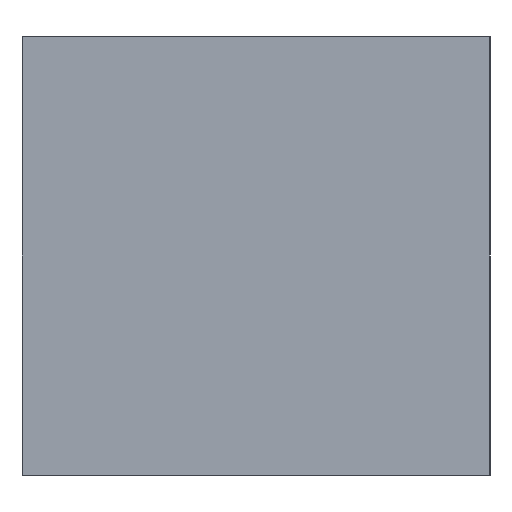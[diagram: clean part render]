
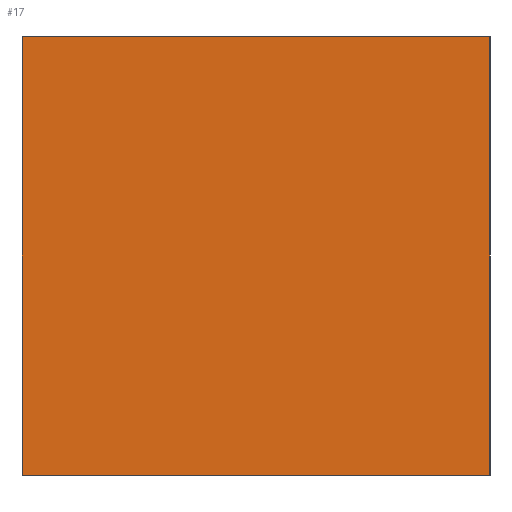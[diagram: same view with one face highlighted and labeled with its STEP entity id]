
A CAD part, left-side view. The second image highlights one B-rep face of the part: STEP entity #17.
In plain terms, the highlighted planar face has unit normal (-1, 0, 0).
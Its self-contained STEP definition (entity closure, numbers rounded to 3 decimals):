
#17 = ADVANCED_FACE('',(#18),#32,.F.);
#18 = FACE_BOUND('',#19,.F.);
#19 = EDGE_LOOP('',(#20,#55,#83,#111));
#20 = ORIENTED_EDGE('',*,*,#21,.F.);
#21 = EDGE_CURVE('',#22,#24,#26,.T.);
#22 = VERTEX_POINT('',#23);
#23 = CARTESIAN_POINT('',(-377.544,-173.369,155.));
#24 = VERTEX_POINT('',#25);
#25 = CARTESIAN_POINT('',(-377.544,-173.369,185.));
#26 = SURFACE_CURVE('',#27,(#31,#43),.PCURVE_S1.);
#27 = LINE('',#28,#29);
#28 = CARTESIAN_POINT('',(-377.544,-173.369,155.));
#29 = VECTOR('',#30,1.);
#30 = DIRECTION('',(0.,0.,1.));
#31 = PCURVE('',#32,#37);
#32 = PLANE('',#33);
#33 = AXIS2_PLACEMENT_3D('',#34,#35,#36);
#34 = CARTESIAN_POINT('',(-377.544,-173.369,155.));
#35 = DIRECTION('',(1.,0.,-0.));
#36 = DIRECTION('',(0.,0.,1.));
#37 = DEFINITIONAL_REPRESENTATION('',(#38),#42);
#38 = LINE('',#39,#40);
#39 = CARTESIAN_POINT('',(0.,0.));
#40 = VECTOR('',#41,1.);
#41 = DIRECTION('',(1.,0.));
#42 = ( GEOMETRIC_REPRESENTATION_CONTEXT(2) 
PARAMETRIC_REPRESENTATION_CONTEXT() REPRESENTATION_CONTEXT('2D SPACE',''
  ) );
#43 = PCURVE('',#44,#49);
#44 = PLANE('',#45);
#45 = AXIS2_PLACEMENT_3D('',#46,#47,#48);
#46 = CARTESIAN_POINT('',(-377.544,-173.369,155.));
#47 = DIRECTION('',(-0.,1.,0.));
#48 = DIRECTION('',(0.,0.,1.));
#49 = DEFINITIONAL_REPRESENTATION('',(#50),#54);
#50 = LINE('',#51,#52);
#51 = CARTESIAN_POINT('',(0.,0.));
#52 = VECTOR('',#53,1.);
#53 = DIRECTION('',(1.,0.));
#54 = ( GEOMETRIC_REPRESENTATION_CONTEXT(2) 
PARAMETRIC_REPRESENTATION_CONTEXT() REPRESENTATION_CONTEXT('2D SPACE',''
  ) );
#55 = ORIENTED_EDGE('',*,*,#56,.T.);
#56 = EDGE_CURVE('',#22,#57,#59,.T.);
#57 = VERTEX_POINT('',#58);
#58 = CARTESIAN_POINT('',(-377.544,-141.369,155.));
#59 = SURFACE_CURVE('',#60,(#64,#71),.PCURVE_S1.);
#60 = LINE('',#61,#62);
#61 = CARTESIAN_POINT('',(-377.544,-173.369,155.));
#62 = VECTOR('',#63,1.);
#63 = DIRECTION('',(-0.,1.,0.));
#64 = PCURVE('',#32,#65);
#65 = DEFINITIONAL_REPRESENTATION('',(#66),#70);
#66 = LINE('',#67,#68);
#67 = CARTESIAN_POINT('',(0.,0.));
#68 = VECTOR('',#69,1.);
#69 = DIRECTION('',(0.,-1.));
#70 = ( GEOMETRIC_REPRESENTATION_CONTEXT(2) 
PARAMETRIC_REPRESENTATION_CONTEXT() REPRESENTATION_CONTEXT('2D SPACE',''
  ) );
#71 = PCURVE('',#72,#77);
#72 = PLANE('',#73);
#73 = AXIS2_PLACEMENT_3D('',#74,#75,#76);
#74 = CARTESIAN_POINT('',(-377.544,-173.369,155.));
#75 = DIRECTION('',(0.,0.,1.));
#76 = DIRECTION('',(1.,0.,-0.));
#77 = DEFINITIONAL_REPRESENTATION('',(#78),#82);
#78 = LINE('',#79,#80);
#79 = CARTESIAN_POINT('',(0.,0.));
#80 = VECTOR('',#81,1.);
#81 = DIRECTION('',(0.,1.));
#82 = ( GEOMETRIC_REPRESENTATION_CONTEXT(2) 
PARAMETRIC_REPRESENTATION_CONTEXT() REPRESENTATION_CONTEXT('2D SPACE',''
  ) );
#83 = ORIENTED_EDGE('',*,*,#84,.T.);
#84 = EDGE_CURVE('',#57,#85,#87,.T.);
#85 = VERTEX_POINT('',#86);
#86 = CARTESIAN_POINT('',(-377.544,-141.369,185.));
#87 = SURFACE_CURVE('',#88,(#92,#99),.PCURVE_S1.);
#88 = LINE('',#89,#90);
#89 = CARTESIAN_POINT('',(-377.544,-141.369,155.));
#90 = VECTOR('',#91,1.);
#91 = DIRECTION('',(0.,0.,1.));
#92 = PCURVE('',#32,#93);
#93 = DEFINITIONAL_REPRESENTATION('',(#94),#98);
#94 = LINE('',#95,#96);
#95 = CARTESIAN_POINT('',(0.,-32.));
#96 = VECTOR('',#97,1.);
#97 = DIRECTION('',(1.,0.));
#98 = ( GEOMETRIC_REPRESENTATION_CONTEXT(2) 
PARAMETRIC_REPRESENTATION_CONTEXT() REPRESENTATION_CONTEXT('2D SPACE',''
  ) );
#99 = PCURVE('',#100,#105);
#100 = PLANE('',#101);
#101 = AXIS2_PLACEMENT_3D('',#102,#103,#104);
#102 = CARTESIAN_POINT('',(-377.544,-141.369,155.));
#103 = DIRECTION('',(-0.,1.,0.));
#104 = DIRECTION('',(0.,0.,1.));
#105 = DEFINITIONAL_REPRESENTATION('',(#106),#110);
#106 = LINE('',#107,#108);
#107 = CARTESIAN_POINT('',(0.,0.));
#108 = VECTOR('',#109,1.);
#109 = DIRECTION('',(1.,0.));
#110 = ( GEOMETRIC_REPRESENTATION_CONTEXT(2) 
PARAMETRIC_REPRESENTATION_CONTEXT() REPRESENTATION_CONTEXT('2D SPACE',''
  ) );
#111 = ORIENTED_EDGE('',*,*,#112,.F.);
#112 = EDGE_CURVE('',#24,#85,#113,.T.);
#113 = SURFACE_CURVE('',#114,(#118,#125),.PCURVE_S1.);
#114 = LINE('',#115,#116);
#115 = CARTESIAN_POINT('',(-377.544,-173.369,185.));
#116 = VECTOR('',#117,1.);
#117 = DIRECTION('',(-0.,1.,0.));
#118 = PCURVE('',#32,#119);
#119 = DEFINITIONAL_REPRESENTATION('',(#120),#124);
#120 = LINE('',#121,#122);
#121 = CARTESIAN_POINT('',(30.,0.));
#122 = VECTOR('',#123,1.);
#123 = DIRECTION('',(0.,-1.));
#124 = ( GEOMETRIC_REPRESENTATION_CONTEXT(2) 
PARAMETRIC_REPRESENTATION_CONTEXT() REPRESENTATION_CONTEXT('2D SPACE',''
  ) );
#125 = PCURVE('',#126,#131);
#126 = PLANE('',#127);
#127 = AXIS2_PLACEMENT_3D('',#128,#129,#130);
#128 = CARTESIAN_POINT('',(-377.544,-173.369,185.));
#129 = DIRECTION('',(0.,0.,1.));
#130 = DIRECTION('',(1.,0.,-0.));
#131 = DEFINITIONAL_REPRESENTATION('',(#132),#136);
#132 = LINE('',#133,#134);
#133 = CARTESIAN_POINT('',(0.,0.));
#134 = VECTOR('',#135,1.);
#135 = DIRECTION('',(0.,1.));
#136 = ( GEOMETRIC_REPRESENTATION_CONTEXT(2) 
PARAMETRIC_REPRESENTATION_CONTEXT() REPRESENTATION_CONTEXT('2D SPACE',''
  ) );
